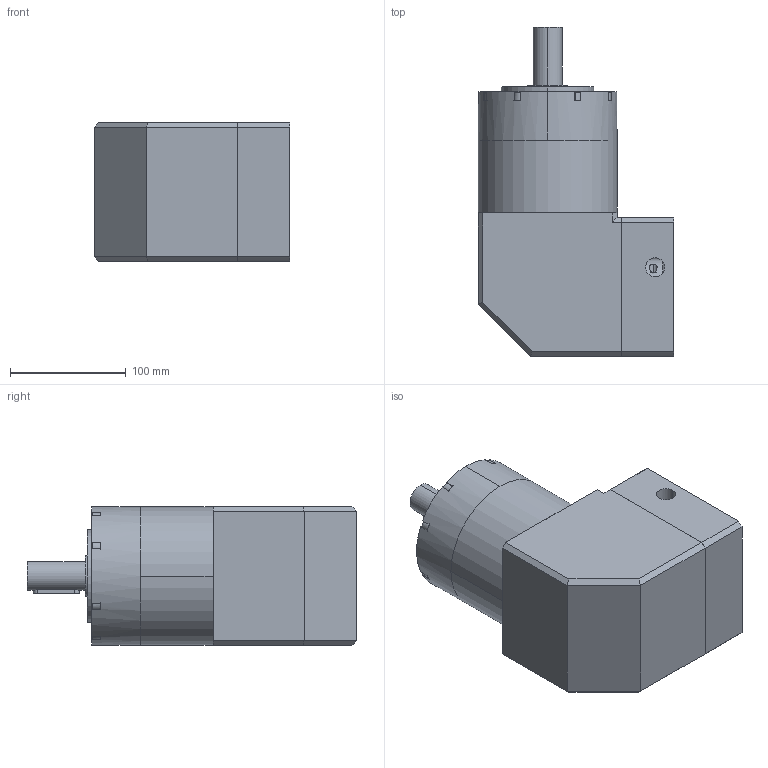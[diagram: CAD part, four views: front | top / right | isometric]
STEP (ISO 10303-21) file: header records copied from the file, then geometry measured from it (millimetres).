
FILE_DESCRIPTION (( 'STEP AP214' ), '1' );
FILE_NAME ('PER-120-L2-S2-P2 22-110-145-M8.STEP', '2023-08-30T09:52:41', ( '微软用户' ), ( '微软中国' ), 'SwSTEP 2.0', 'SolidWorks 2018', '' );
FILE_SCHEMA (( 'AUTOMOTIVE_DESIGN' ));
Length unit declared in the file: millimetre
Products named in the file (9): PER-120-L2-S2-P2 22-110-145-M8; PER120 內齿圈_二级内齿圈; 螺釘範本 M8x20; 邧埴瑩 8x7x40; PER120-蟀諉啣; 粣創-3207A 35x72x27_2; PER120-薊粣ん-梓袧; PER120 奻屳唳; PER120-眊极
Assembly tree (8 placements, depth 2):
  PER-120-L2-S2-P2 22-110-145-M8
    PER120-眊极
    PER120 內齿圈_二级内齿圈
    PER120 奻屳唳
    PER120-蟀諉啣
    PER120-薊粣ん-梓袧
    螺釘範本 M8x20
    邧埴瑩 8x7x40
    粣創-3207A 35x72x27_2
Bounding box: 169 x 284.5 x 120 mm (x, y, z)
Volume: 3334243.2 mm3; surface area: 323322.4 mm2
Topology: 8 solids, 16 shells, 582 faces, 1616 edges, 1041 vertices
Faces by surface type: cylinder 213, plane 199, bspline 138, cone 32
Entity records: 29151 total; most frequent: CARTESIAN_POINT 8265, ORIENTED_EDGE 3148, DIRECTION 2771, EDGE_CURVE 1574, AXIS2_PLACEMENT_3D 1103, VERTEX_POINT 1033, EDGE_LOOP 659, CIRCLE 648
